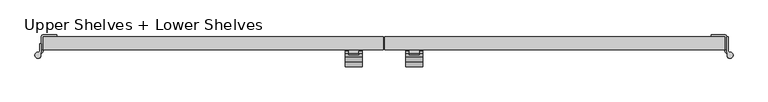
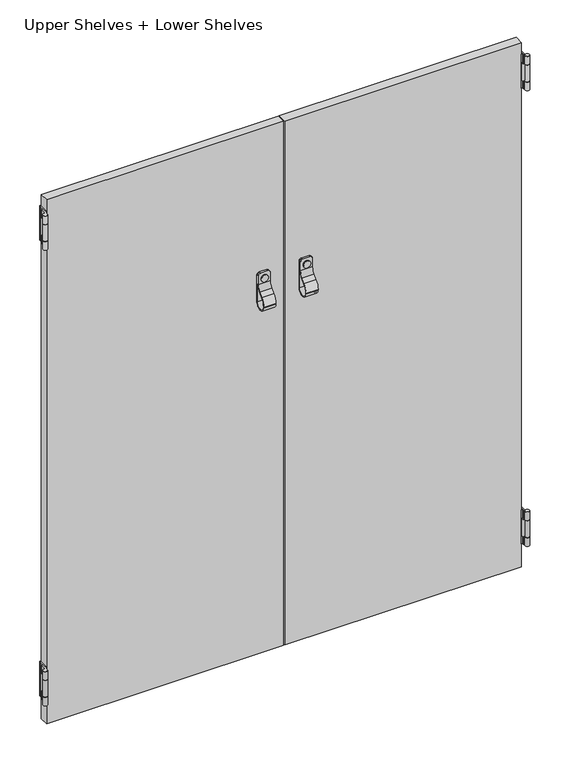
"""IFC4 building model written with IfcOpenShell, lengths in millimetres: furniture geometry, SmithSystem_AM_Storage_Education_Constellate_Stacking_LowMidCluster : Upper Shelves + Lower Shelves."""

from ifc_helpers import new_model, si_unit, point, frame, frame_2d, origin, place, context, project, spatial, polyline, circle_curve, trimmed, segment, composite_curve, outline, extrude, source, transform, mapped, element, save
from ifc_brep_helpers import plane_surface, cylinder_surface, revolved_surface, advanced_brep


def upper_shelves_lower_shelves_66190618(model_context):
    return source(origin(), model_context, "Body", "SolidModel", [
        advanced_brep(
        [(-57.15, -247.65, 844.55), (-31.75, -247.65, 844.55), (-31.75, -247.65, 884.1907684), (-57.15, -247.65, 884.1907684), (-31.75, -245.11, 844.55), (-57.15, -245.11, 844.55), (-57.15, -245.11, 902.97), (-52.07, -245.11, 908.05), (-36.83, -245.11, 908.05), (-31.75, -245.11, 902.97), (-57.15, -267.97, 845.4589755), (-31.75, -267.97, 845.4589755), (-31.75, -267.97, 844.55), (-57.15, -267.97, 844.55), (-31.75, -270.51, 845.4589755), (-57.15, -270.51, 845.4589755), (-57.15, -270.51, 844.55), (-31.75, -270.51, 844.55), (-31.75, -247.65, 902.97), (-31.75, -250.19, 902.97), (-31.75, -250.19, 884.1907684), (-31.75, -255.7696158, 870.7203842), (-31.75, -263.0705122, 863.4194878), (-31.75, -261.274461, 861.6234365), (-31.75, -253.9735646, 868.924333), (-57.15, -250.19, 902.97), (-57.15, -247.65, 902.97), (-57.15, -263.0705122, 863.4194878), (-57.15, -255.7696158, 870.7203842), (-57.15, -250.19, 884.1907684), (-57.15, -253.9735646, 868.924333), (-57.15, -261.274461, 861.6234365), (-36.83, -250.19, 908.05), (-52.07, -250.19, 908.05), (-36.83, -247.65, 908.05), (-52.07, -247.65, 908.05)],
        [
            (0, 1),
            (1, 2),
            (2, 3),
            (3, 0),
            (4, 5),
            (5, 6),
            (6, 7, circle_curve(frame((-52.07, -245.11, 902.97), z_axis=(0.0, 1.0, 0.0), x_axis=(1.0, 0.0, 0.0)), 5.08)),
            (7, 8),
            (8, 9, circle_curve(frame((-36.83, -245.11, 902.97), z_axis=(0.0, 1.0, 0.0), x_axis=(1.0, 0.0, 0.0)), 5.08)),
            (9, 4),
            (10, 11),
            (11, 12),
            (12, 13),
            (13, 10),
            (14, 15),
            (15, 16),
            (16, 17),
            (17, 14),
            (0, 13, circle_curve(frame((-57.15, -257.81, 844.55), z_axis=(-1.0, 0.0, 0.0), x_axis=(0.0, -1.0, 0.0)), 10.16)),
            (12, 1, circle_curve(frame((-31.75, -257.81, 844.55), z_axis=(1.0, 0.0, 0.0), x_axis=(0.0, -1.0, 0.0)), 10.16)),
            (4, 17, circle_curve(frame((-31.75, -257.81, 844.55), z_axis=(-1.0, 0.0, 0.0), x_axis=(0.0, -1.0, 0.0)), 12.7)),
            (16, 5, circle_curve(frame((-57.15, -257.81, 844.55), z_axis=(1.0, 0.0, 0.0), x_axis=(0.0, -1.0, 0.0)), 12.7)),
            (9, 18),
            (18, 19),
            (19, 20),
            (20, 21, circle_curve(frame((-31.75, -269.24, 884.1907684), z_axis=(-1.0, 0.0, 0.0), x_axis=(0.0, 1.0, 0.0)), 19.05)),
            (21, 22),
            (22, 14, circle_curve(frame((-31.75, -245.11, 845.4589755), z_axis=(1.0, 0.0, 0.0), x_axis=(0.0, -0.7071067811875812, 0.7071067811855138)), 25.4)),
            (11, 23, circle_curve(frame((-31.75, -245.11, 845.4589755), z_axis=(-1.0, 0.0, 0.0), x_axis=(0.0, -0.7071067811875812, 0.7071067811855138)), 22.86)),
            (23, 24),
            (24, 2, circle_curve(frame((-31.75, -269.24, 884.1907684), z_axis=(1.0, 0.0, 0.0), x_axis=(0.0, 1.0, 0.0)), 21.59)),
            (25, 26),
            (26, 6),
            (15, 27, circle_curve(frame((-57.15, -245.11, 845.4589755), z_axis=(-1.0, 0.0, 0.0), x_axis=(0.0, -0.7071067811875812, 0.7071067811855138)), 25.4)),
            (27, 28),
            (28, 29, circle_curve(frame((-57.15, -269.24, 884.1907684), z_axis=(1.0, 0.0, 0.0), x_axis=(0.0, 1.0, 0.0)), 19.05)),
            (29, 25),
            (3, 30, circle_curve(frame((-57.15, -269.24, 884.1907684), z_axis=(-1.0, 0.0, 0.0), x_axis=(0.0, 1.0, 0.0)), 21.59)),
            (30, 31),
            (31, 10, circle_curve(frame((-57.15, -245.11, 845.4589755), z_axis=(1.0, 0.0, 0.0), x_axis=(0.0, -0.7071067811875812, 0.7071067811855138)), 22.86)),
            (29, 20),
            (19, 32, circle_curve(frame((-36.83, -250.19, 902.97), z_axis=(0.0, -1.0, 0.0), x_axis=(1.0, 0.0, 0.0)), 5.08)),
            (32, 33),
            (33, 25, circle_curve(frame((-52.07, -250.19, 902.97), z_axis=(0.0, -1.0, 0.0), x_axis=(1.0, 0.0, 0.0)), 5.08)),
            (24, 30),
            (28, 21),
            (23, 31),
            (27, 22),
            (18, 34, circle_curve(frame((-36.83, -247.65, 902.97), z_axis=(0.0, -1.0, 0.0), x_axis=(1.0, 0.0, 0.0)), 5.08)),
            (34, 32),
            (34, 8),
            (7, 35),
            (35, 33),
            (35, 26, circle_curve(frame((-52.07, -247.65, 902.97), z_axis=(0.0, -1.0, 0.0), x_axis=(1.0, 0.0, 0.0)), 5.08)),
        ],
        [
            plane_surface(frame((-31.75, -247.65, 844.55), z_axis=(0.0, -1.0, 0.0), x_axis=(0.0, 0.0, 1.0))),
            plane_surface(frame((-57.15, -245.11, 844.55), z_axis=(0.0, 1.0, 0.0), x_axis=(0.0, 0.0, 1.0))),
            plane_surface(frame((-31.75, -267.97, 845.4589755), z_axis=(0.0, 1.0, 0.0), x_axis=(0.0, 0.0, -1.0))),
            plane_surface(frame((-57.15, -270.51, 845.4589755), z_axis=(0.0, -1.0, 0.0), x_axis=(0.0, 0.0, -1.0))),
            revolved_surface(polyline([(-31.75, -267.97, 844.55), (-57.15, -267.97, 844.55)]), (0.0, -257.81, 844.55), (1.0, 0.0, 0.0)),
            cylinder_surface(frame((0.0, -257.81, 844.55), z_axis=(1.0, 0.0, 0.0), x_axis=(0.0, -1.0, 0.0)), 12.7),
            plane_surface(frame((-31.75, -250.19, 895.35), z_axis=(1.0, 0.0, 0.0), x_axis=(0.0, 0.0, -1.0))),
            plane_surface(frame((-57.15, -247.65, 895.35), z_axis=(-1.0, 0.0, 0.0), x_axis=(0.0, 0.0, -1.0))),
            plane_surface(frame((-57.15, -250.19, 895.35), z_axis=(0.0, -1.0, 0.0), x_axis=(0.0, 0.0, -1.0))),
            cylinder_surface(frame((0.0, -269.24, 884.1907684), z_axis=(-1.0, 0.0, 0.0), x_axis=(0.0, 1.0, 0.0)), 21.59),
            revolved_surface(polyline([(-57.15, -250.19, 884.1907684), (-31.75, -250.19, 884.1907684)]), (0.0, -269.24, 884.1907684), (-1.0, 0.0, 0.0)),
            plane_surface(frame((-31.75, -253.9735646, 868.924333), z_axis=(0.0, 0.70710678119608, -0.7071067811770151), x_axis=(0.0, -0.7071067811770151, -0.70710678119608))),
            plane_surface(frame((-57.15, -255.7696158, 870.7203842), z_axis=(0.0, -0.7071067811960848, 0.7071067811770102), x_axis=(0.0, -0.7071067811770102, -0.7071067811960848))),
            revolved_surface(polyline([(-31.75, -261.2744610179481, 861.6234365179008), (-57.15, -261.2744610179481, 861.6234365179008)]), (0.0, -245.11, 845.4589755), (1.0, 0.0, 0.0)),
            cylinder_surface(frame((0.0, -245.11, 845.4589755), z_axis=(1.0, 0.0, 0.0), x_axis=(0.0, -0.7071067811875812, 0.7071067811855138)), 25.4),
            cylinder_surface(frame((-36.83, -245.11, 902.97), z_axis=(0.0, -1.0, 0.0), x_axis=(1.0, 0.0, 0.0)), 5.08),
            plane_surface(frame((-36.83, -250.19, 908.05), z_axis=(1.0835776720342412e-12, 0.0, 1.0), x_axis=(0.0, 1.0, 0.0))),
            cylinder_surface(frame((-52.07, -245.11, 902.97), z_axis=(0.0, -1.0, 0.0), x_axis=(1.0, 0.0, 0.0)), 5.08),
        ],
        [
            (0, [[1, 2, 3, 4]]),
            (1, [[5, 6, 7, 8, 9, 10]]),
            (2, [[11, 12, 13, 14]]),
            (3, [[15, 16, 17, 18]]),
            (4, [[-1, 19, -13, 20]]),
            (5, [[-5, 21, -17, 22]]),
            (6, [[-10, 23, 24, 25, 26, 27, 28, -18, -21], [-2, -20, -12, 29, 30, 31]]),
            (7, [[32, 33, -6, -22, -16, 34, 35, 36, 37], [-4, 38, 39, 40, -14, -19]]),
            (8, [[41, -25, 42, 43, 44, -37]]),
            (9, [[-31, 45, -38, -3]]),
            (10, [[-26, -41, -36, 46]]),
            (11, [[-30, 47, -39, -45]]),
            (12, [[-27, -46, -35, 48]]),
            (13, [[-11, -40, -47, -29]]),
            (14, [[-15, -28, -48, -34]]),
            (15, [[-42, -24, 49, 50]]),
            (16, [[-43, -50, 51, -8, 52, 53]]),
            (17, [[-44, -53, 54, -32]]),
            (15, [[-9, -51, -49, -23]]),
            (17, [[-7, -33, -54, -52]]),
        ],
    ),
        advanced_brep(
        [(57.15, -247.65, 884.1907684), (31.75, -247.65, 884.1907684), (31.75, -247.65, 844.55), (57.15, -247.65, 844.55), (31.75, -245.11, 902.97), (36.83, -245.11, 908.05), (52.07, -245.11, 908.05), (57.15, -245.11, 902.97), (57.15, -245.11, 844.55), (31.75, -245.11, 844.55), (31.75, -267.97, 845.4589755), (57.15, -267.97, 845.4589755), (57.15, -267.97, 844.55), (31.75, -267.97, 844.55), (57.15, -270.51, 845.4589755), (31.75, -270.51, 845.4589755), (31.75, -270.51, 844.55), (57.15, -270.51, 844.55), (31.75, -250.19, 884.1907684), (57.15, -250.19, 884.1907684), (57.15, -250.19, 902.97), (52.07, -250.19, 908.05), (36.83, -250.19, 908.05), (31.75, -250.19, 902.97), (57.15, -247.65, 902.97), (57.15, -255.7696158, 870.7203842), (57.15, -263.0705122, 863.4194878), (57.15, -261.274461, 861.6234365), (57.15, -253.9735646, 868.924333), (31.75, -247.65, 902.97), (31.75, -263.0705122, 863.4194878), (31.75, -255.7696158, 870.7203842), (31.75, -253.9735646, 868.924333), (31.75, -261.274461, 861.6234365), (52.07, -247.65, 908.05), (36.83, -247.65, 908.05)],
        [
            (0, 1),
            (1, 2),
            (2, 3),
            (3, 0),
            (4, 5, circle_curve(frame((36.83, -245.11, 902.97), z_axis=(0.0, 1.0, 0.0), x_axis=(1.0, 0.0, 0.0)), 5.08)),
            (5, 6),
            (6, 7, circle_curve(frame((52.07, -245.11, 902.97), z_axis=(0.0, 1.0, 0.0), x_axis=(1.0, 0.0, 0.0)), 5.08)),
            (7, 8),
            (8, 9),
            (9, 4),
            (10, 11),
            (11, 12),
            (12, 13),
            (13, 10),
            (14, 15),
            (15, 16),
            (16, 17),
            (17, 14),
            (2, 13, circle_curve(frame((31.75, -257.81, 844.55), z_axis=(-1.0, 0.0, 0.0), x_axis=(0.0, -1.0, 0.0)), 10.16)),
            (12, 3, circle_curve(frame((57.15, -257.81, 844.55), z_axis=(1.0, 0.0, 0.0), x_axis=(0.0, -1.0, 0.0)), 10.16)),
            (8, 17, circle_curve(frame((57.15, -257.81, 844.55), z_axis=(-1.0, 0.0, 0.0), x_axis=(0.0, -1.0, 0.0)), 12.7)),
            (16, 9, circle_curve(frame((31.75, -257.81, 844.55), z_axis=(1.0, 0.0, 0.0), x_axis=(0.0, -1.0, 0.0)), 12.7)),
            (18, 19),
            (19, 20),
            (20, 21, circle_curve(frame((52.07, -250.19, 902.97), z_axis=(0.0, -1.0, 0.0), x_axis=(1.0, 0.0, 0.0)), 5.08)),
            (21, 22),
            (22, 23, circle_curve(frame((36.83, -250.19, 902.97), z_axis=(0.0, -1.0, 0.0), x_axis=(1.0, 0.0, 0.0)), 5.08)),
            (23, 18),
            (7, 24),
            (24, 20),
            (19, 25, circle_curve(frame((57.15, -269.24, 884.1907684), z_axis=(-1.0, 0.0, 0.0), x_axis=(0.0, 1.0, 0.0)), 19.05)),
            (25, 26),
            (26, 14, circle_curve(frame((57.15, -245.11, 845.4589755), z_axis=(1.0, 0.0, 0.0), x_axis=(0.0, -0.7071067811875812, 0.7071067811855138)), 25.4)),
            (11, 27, circle_curve(frame((57.15, -245.11, 845.4589755), z_axis=(-1.0, 0.0, 0.0), x_axis=(0.0, -0.7071067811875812, 0.7071067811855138)), 22.86)),
            (27, 28),
            (28, 0, circle_curve(frame((57.15, -269.24, 884.1907684), z_axis=(1.0, 0.0, 0.0), x_axis=(0.0, 1.0, 0.0)), 21.59)),
            (23, 29),
            (29, 4),
            (15, 30, circle_curve(frame((31.75, -245.11, 845.4589755), z_axis=(-1.0, 0.0, 0.0), x_axis=(0.0, -0.7071067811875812, 0.7071067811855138)), 25.4)),
            (30, 31),
            (31, 18, circle_curve(frame((31.75, -269.24, 884.1907684), z_axis=(1.0, 0.0, 0.0), x_axis=(0.0, 1.0, 0.0)), 19.05)),
            (1, 32, circle_curve(frame((31.75, -269.24, 884.1907684), z_axis=(-1.0, 0.0, 0.0), x_axis=(0.0, 1.0, 0.0)), 21.59)),
            (32, 33),
            (33, 10, circle_curve(frame((31.75, -245.11, 845.4589755), z_axis=(1.0, 0.0, 0.0), x_axis=(0.0, -0.7071067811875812, 0.7071067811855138)), 22.86)),
            (28, 32),
            (31, 25),
            (27, 33),
            (30, 26),
            (21, 34),
            (34, 6),
            (5, 35),
            (35, 22),
            (35, 29, circle_curve(frame((36.83, -247.65, 902.97), z_axis=(0.0, -1.0, 0.0), x_axis=(1.0, 0.0, 0.0)), 5.08)),
            (24, 34, circle_curve(frame((52.07, -247.65, 902.97), z_axis=(0.0, -1.0, 0.0), x_axis=(1.0, 0.0, 0.0)), 5.08)),
        ],
        [
            plane_surface(frame((-31.75, -247.65, 844.55), z_axis=(0.0, -1.0, 0.0), x_axis=(0.0, 0.0, 1.0))),
            plane_surface(frame((-57.15, -245.11, 844.55), z_axis=(0.0, 1.0, 0.0), x_axis=(0.0, 0.0, 1.0))),
            plane_surface(frame((57.15, -267.97, 845.4589755), z_axis=(0.0, 1.0, 0.0), x_axis=(0.0, 0.0, -1.0))),
            plane_surface(frame((31.75, -270.51, 845.4589755), z_axis=(0.0, -1.0, 0.0), x_axis=(0.0, 0.0, -1.0))),
            revolved_surface(polyline([(57.15, -267.97, 844.55), (31.75, -267.97, 844.55)]), (0.0, -257.81, 844.55), (1.0, 0.0, 0.0)),
            cylinder_surface(frame((0.0, -257.81, 844.55), z_axis=(1.0, 0.0, 0.0), x_axis=(0.0, -1.0, 0.0)), 12.7),
            plane_surface(frame((-57.15, -250.19, 895.35), z_axis=(0.0, -1.0, 0.0), x_axis=(0.0, 0.0, -1.0))),
            plane_surface(frame((57.15, -250.19, 895.35), z_axis=(1.0, 0.0, 0.0), x_axis=(0.0, 0.0, -1.0))),
            plane_surface(frame((31.75, -247.65, 895.35), z_axis=(-1.0, 0.0, 0.0), x_axis=(0.0, 0.0, -1.0))),
            cylinder_surface(frame((0.0, -269.24, 884.1907684), z_axis=(-1.0, 0.0, 0.0), x_axis=(0.0, 1.0, 0.0)), 21.59),
            revolved_surface(polyline([(31.75, -250.19, 884.1907684), (57.15, -250.19, 884.1907684)]), (0.0, -269.24, 884.1907684), (-1.0, 0.0, 0.0)),
            plane_surface(frame((57.15, -253.9735646, 868.924333), z_axis=(0.0, 0.7071067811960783, -0.7071067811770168), x_axis=(0.0, -0.7071067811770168, -0.7071067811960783))),
            plane_surface(frame((31.75, -255.7696158, 870.7203842), z_axis=(0.0, -0.7071067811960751, 0.7071067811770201), x_axis=(0.0, -0.7071067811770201, -0.7071067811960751))),
            revolved_surface(polyline([(57.15, -261.2744610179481, 861.6234365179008), (31.75, -261.2744610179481, 861.6234365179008)]), (0.0, -245.11, 845.4589755), (1.0, 0.0, 0.0)),
            cylinder_surface(frame((0.0, -245.11, 845.4589755), z_axis=(1.0, 0.0, 0.0), x_axis=(0.0, -0.7071067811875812, 0.7071067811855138)), 25.4),
            plane_surface(frame((52.07, -250.19, 908.05), z_axis=(0.0, 0.0, 1.0), x_axis=(0.0, 1.0, 0.0))),
            cylinder_surface(frame((36.83, -247.65, 902.97), z_axis=(0.0, -1.0, 0.0), x_axis=(1.0, 0.0, 0.0)), 5.08),
            cylinder_surface(frame((52.07, -247.65, 902.97), z_axis=(0.0, -1.0, 0.0), x_axis=(1.0, 0.0, 0.0)), 5.08),
            cylinder_surface(frame((52.07, -245.11, 902.97), z_axis=(0.0, -1.0, 0.0), x_axis=(1.0, 0.0, 0.0)), 5.08),
            cylinder_surface(frame((36.83, -245.11, 902.97), z_axis=(0.0, -1.0, 0.0), x_axis=(1.0, 0.0, 0.0)), 5.08),
        ],
        [
            (0, [[1, 2, 3, 4]]),
            (1, [[5, 6, 7, 8, 9, 10]]),
            (2, [[11, 12, 13, 14]]),
            (3, [[15, 16, 17, 18]]),
            (4, [[-3, 19, -13, 20]]),
            (5, [[-9, 21, -17, 22]]),
            (6, [[23, 24, 25, 26, 27, 28]]),
            (7, [[-8, 29, 30, -24, 31, 32, 33, -18, -21], [-4, -20, -12, 34, 35, 36]]),
            (8, [[37, 38, -10, -22, -16, 39, 40, 41, -28], [-2, 42, 43, 44, -14, -19]]),
            (9, [[-36, 45, -42, -1]]),
            (10, [[-31, -23, -41, 46]]),
            (11, [[-35, 47, -43, -45]]),
            (12, [[-32, -46, -40, 48]]),
            (13, [[-11, -44, -47, -34]]),
            (14, [[-15, -33, -48, -39]]),
            (15, [[-26, 49, 50, -6, 51, 52]]),
            (16, [[-27, -52, 53, -37]]),
            (17, [[-25, -30, 54, -49]]),
            (18, [[-7, -50, -54, -29]]),
            (19, [[-5, -38, -53, -51]]),
        ],
    ),
        advanced_brep(
        [(-505.46, -247.65, 1123.95), (-505.46, -236.22, 1123.95), (-502.92, -236.22, 1123.95), (-502.92, -247.65, 1123.95), (-504.444, -250.698, 1123.95), (-508.0, -248.92, 1123.95), (-506.73, -248.92, 1123.95), (-505.46, -247.65, 1143.0), (-506.73, -248.92, 1143.0), (-508.0, -248.92, 1143.0), (-504.444, -250.698, 1143.0), (-502.92, -247.65, 1143.0), (-502.92, -236.22, 1143.0), (-505.46, -236.22, 1143.0)],
        [
            (0, 1),
            (1, 2),
            (2, 3),
            (3, 4, circle_curve(frame((-506.73, -247.65, 1123.95), z_axis=(0.0, 0.0, -1.0), x_axis=(0.0, 1.0, 0.0)), 3.81)),
            (4, 5, circle_curve(frame((-508.0, -253.365, 1123.95), z_axis=(0.0, 0.0, -1.0), x_axis=(0.0, 1.0, 0.0)), 4.445)),
            (5, 6),
            (6, 0, circle_curve(frame((-506.73, -247.65, 1123.95), z_axis=(0.0, 0.0, 1.0), x_axis=(0.0, 1.0, 0.0)), 1.27)),
            (7, 8, circle_curve(frame((-506.73, -247.65, 1143.0), z_axis=(0.0, 0.0, -1.0), x_axis=(0.0, 1.0, 0.0)), 1.27)),
            (8, 9),
            (9, 10, circle_curve(frame((-508.0, -253.365, 1143.0), z_axis=(0.0, 0.0, 1.0), x_axis=(0.0, 1.0, 0.0)), 4.445)),
            (10, 11, circle_curve(frame((-506.73, -247.65, 1143.0), z_axis=(0.0, 0.0, 1.0), x_axis=(0.0, 1.0, 0.0)), 3.81)),
            (11, 12),
            (12, 13),
            (13, 7),
            (2, 12),
            (11, 3),
            (1, 13),
            (0, 7),
            (6, 8),
            (5, 9),
            (4, 10),
        ],
        [
            plane_surface(frame((-505.46, -236.22, 1123.95), z_axis=(0.0, 0.0, -1.0), x_axis=(0.0, 1.0, 0.0))),
            plane_surface(frame((-505.46, -236.22, 1143.0), z_axis=(0.0, 0.0, 1.0), x_axis=(0.0, -1.0, 0.0))),
            plane_surface(frame((-502.92, -236.22, 1123.95), z_axis=(1.0, 0.0, 0.0), x_axis=(0.0, 0.0, 1.0))),
            plane_surface(frame((-505.46, -236.22, 1123.95), z_axis=(0.0, 1.0, 0.0), x_axis=(0.0, 0.0, 1.0))),
            plane_surface(frame((-505.46, -247.65, 1123.95), z_axis=(-1.0, 0.0, 0.0), x_axis=(0.0, 0.0, 1.0))),
            revolved_surface(polyline([(-506.73, -246.38, 1143.0), (-506.73, -246.38, 1123.95)]), (-506.73, -247.65, 1143.0), (0.0, 0.0, 1.0)),
            plane_surface(frame((-508.0, -248.92, 1123.95), z_axis=(0.0, 1.0, 0.0), x_axis=(0.0, 0.0, 1.0))),
            cylinder_surface(frame((-508.0, -253.365, 1143.0), z_axis=(0.0, 0.0, -1.0), x_axis=(0.0, 1.0, 0.0)), 4.445),
            cylinder_surface(frame((-506.73, -247.65, 1143.0), z_axis=(0.0, 0.0, -1.0), x_axis=(0.0, 1.0, 0.0)), 3.81),
        ],
        [
            (0, [[1, 2, 3, 4, 5, 6, 7]]),
            (1, [[8, 9, 10, 11, 12, 13, 14]]),
            (2, [[-3, 15, -12, 16]]),
            (3, [[-2, 17, -13, -15]]),
            (4, [[-1, 18, -14, -17]]),
            (5, [[-7, 19, -8, -18]]),
            (6, [[-6, 20, -9, -19]]),
            (7, [[-5, 21, -10, -20]]),
            (8, [[-4, -16, -11, -21]]),
        ],
    ),
        advanced_brep(
        [(504.444, -250.698, 1123.95), (502.92, -247.65, 1123.95), (502.92, -226.06, 1123.95), (505.46, -226.06, 1123.95), (505.46, -247.65, 1123.95), (506.73, -248.92, 1123.95), (508.0, -248.92, 1123.95), (504.444, -250.698, 1143.0), (508.0, -248.92, 1143.0), (506.73, -248.92, 1143.0), (505.46, -247.65, 1143.0), (505.46, -245.11, 1143.0), (502.92, -245.11, 1143.0), (502.92, -247.65, 1143.0), (505.46, -226.06, 1200.15), (505.46, -247.65, 1200.15), (505.46, -247.65, 1181.1), (505.46, -245.11, 1181.1), (502.92, -245.11, 1181.1), (502.92, -247.65, 1181.1), (502.92, -247.65, 1200.15), (502.92, -226.06, 1200.15), (504.444, -250.698, 1200.15), (508.0, -248.92, 1200.15), (506.73, -248.92, 1200.15), (506.73, -248.92, 1181.1), (508.0, -248.92, 1181.1), (504.444, -250.698, 1181.1)],
        [
            (0, 1, circle_curve(frame((506.73, -247.65, 1123.95), z_axis=(0.0, 0.0, -1.0), x_axis=(0.0, 1.0, 0.0)), 3.81)),
            (1, 2),
            (2, 3),
            (3, 4),
            (4, 5, circle_curve(frame((506.73, -247.65, 1123.95), z_axis=(0.0, 0.0, 1.0), x_axis=(0.0, 1.0, 0.0)), 1.27)),
            (5, 6),
            (6, 0, circle_curve(frame((508.0, -253.365, 1123.95), z_axis=(0.0, 0.0, -1.0), x_axis=(0.0, 1.0, 0.0)), 4.445)),
            (7, 8, circle_curve(frame((508.0, -253.365, 1143.0), z_axis=(0.0, 0.0, 1.0), x_axis=(0.0, 1.0, 0.0)), 4.445)),
            (8, 9),
            (9, 10, circle_curve(frame((506.73, -247.65, 1143.0), z_axis=(0.0, 0.0, -1.0), x_axis=(0.0, 1.0, 0.0)), 1.27)),
            (10, 11),
            (11, 12),
            (12, 13),
            (13, 7, circle_curve(frame((506.73, -247.65, 1143.0), z_axis=(0.0, 0.0, 1.0), x_axis=(0.0, 1.0, 0.0)), 3.81)),
            (5, 9),
            (8, 6),
            (4, 10),
            (3, 14),
            (14, 15),
            (15, 16),
            (16, 17),
            (17, 11),
            (1, 13),
            (12, 18),
            (18, 19),
            (19, 20),
            (20, 21),
            (21, 2),
            (7, 0),
            (20, 22, circle_curve(frame((506.73, -247.65, 1200.15), z_axis=(0.0, 0.0, 1.0), x_axis=(0.0, 1.0, 0.0)), 3.81)),
            (22, 23, circle_curve(frame((508.0, -253.365, 1200.15), z_axis=(0.0, 0.0, 1.0), x_axis=(0.0, 1.0, 0.0)), 4.445)),
            (23, 24),
            (24, 15, circle_curve(frame((506.73, -247.65, 1200.15), z_axis=(0.0, 0.0, -1.0), x_axis=(0.0, 1.0, 0.0)), 1.27)),
            (14, 21),
            (16, 25, circle_curve(frame((506.73, -247.65, 1181.1), z_axis=(0.0, 0.0, 1.0), x_axis=(0.0, 1.0, 0.0)), 1.27)),
            (25, 26),
            (26, 27, circle_curve(frame((508.0, -253.365, 1181.1), z_axis=(0.0, 0.0, -1.0), x_axis=(0.0, 1.0, 0.0)), 4.445)),
            (27, 19, circle_curve(frame((506.73, -247.65, 1181.1), z_axis=(0.0, 0.0, -1.0), x_axis=(0.0, 1.0, 0.0)), 3.81)),
            (18, 17),
            (23, 26),
            (25, 24),
            (22, 27),
        ],
        [
            plane_surface(frame((-505.46, -236.22, 1123.95), z_axis=(0.0, 0.0, -1.0), x_axis=(0.0, 1.0, 0.0))),
            plane_surface(frame((-505.46, -236.22, 1143.0), z_axis=(0.0, 0.0, 1.0), x_axis=(0.0, -1.0, 0.0))),
            plane_surface(frame((506.73, -248.92, 1123.95), z_axis=(0.0, 1.0, 0.0), x_axis=(0.0, 0.0, 1.0))),
            revolved_surface(polyline([(506.73, -246.38, 1143.0), (506.73, -246.38, 1123.95)]), (506.73, -247.65, 1123.95), (0.0, 0.0, 1.0)),
            plane_surface(frame((505.46, -236.22, 1123.95), z_axis=(1.0, 0.0, 0.0), x_axis=(0.0, 0.0, 1.0))),
            plane_surface(frame((502.92, -247.65, 1123.95), z_axis=(-1.0, 0.0, 0.0), x_axis=(0.0, 0.0, 1.0))),
            cylinder_surface(frame((508.0, -253.365, 1123.95), z_axis=(0.0, 0.0, -1.0), x_axis=(0.0, 1.0, 0.0)), 4.445),
            plane_surface(frame((-508.0, -248.92, 1200.15), z_axis=(0.0, 0.0, 1.0), x_axis=(-1.0, 0.0, 0.0))),
            plane_surface(frame((-508.0, -248.92, 1181.1), z_axis=(0.0, 0.0, -1.0), x_axis=(1.0, 0.0, 0.0))),
            plane_surface(frame((506.73, -248.92, 1181.1), z_axis=(0.0, 1.0, 0.0), x_axis=(0.0, 0.0, 1.0))),
            revolved_surface(polyline([(506.73, -246.38, 1200.15), (506.73, -246.38, 1181.1)]), (506.73, -247.65, 1123.95), (0.0, 0.0, 1.0)),
            plane_surface(frame((505.46, -226.06, 1123.95), z_axis=(0.0, 1.0, 0.0), x_axis=(-1.0, 0.0, 0.0))),
            plane_surface(frame((505.46, -245.11, 1200.15), z_axis=(0.0, -1.0, 0.0), x_axis=(-1.0, 0.0, 0.0))),
            cylinder_surface(frame((506.73, -247.65, 1123.95), z_axis=(0.0, 0.0, -1.0), x_axis=(0.0, 1.0, 0.0)), 3.81),
        ],
        [
            (0, [[1, 2, 3, 4, 5, 6, 7]]),
            (1, [[8, 9, 10, 11, 12, 13, 14]]),
            (2, [[-6, 15, -9, 16]]),
            (3, [[-5, 17, -10, -15]]),
            (4, [[-17, -4, 18, 19, 20, 21, 22, -11]]),
            (5, [[-2, 23, -13, 24, 25, 26, 27, 28]]),
            (6, [[-7, -16, -8, 29]]),
            (7, [[-27, 30, 31, 32, 33, -19, 34]]),
            (8, [[35, 36, 37, 38, -25, 39, -21]]),
            (9, [[-32, 40, -36, 41]]),
            (10, [[-33, -41, -35, -20]]),
            (6, [[-31, 42, -37, -40]]),
            (11, [[-28, -34, -18, -3]]),
            (12, [[-24, -12, -22, -39]]),
            (13, [[-30, -26, -38, -42]]),
            (13, [[-1, -29, -14, -23]]),
        ],
    ),
        advanced_brep(
        [(505.46, -226.06, 107.95), (505.46, -226.06, 184.15), (505.46, -247.65, 184.15), (505.46, -247.65, 165.1), (505.46, -245.11, 165.1), (505.46, -245.11, 127.0), (505.46, -247.65, 127.0), (505.46, -247.65, 107.95), (502.92, -226.06, 184.15), (502.92, -226.06, 107.95), (502.92, -247.65, 107.95), (502.92, -247.65, 127.0), (502.92, -245.11, 127.0), (502.92, -245.11, 165.1), (502.92, -247.65, 165.1), (502.92, -247.65, 184.15), (504.444, -250.698, 184.15), (508.0, -248.92, 184.15), (506.73, -248.92, 184.15), (506.73, -248.92, 165.1), (508.0, -248.92, 165.1), (504.444, -250.698, 165.1), (504.444, -250.698, 127.0), (508.0, -248.92, 127.0), (506.73, -248.92, 127.0), (504.444, -250.698, 107.95), (506.73, -248.92, 107.95), (508.0, -248.92, 107.95)],
        [
            (0, 1),
            (1, 2),
            (2, 3),
            (3, 4),
            (4, 5),
            (5, 6),
            (6, 7),
            (7, 0),
            (8, 9),
            (9, 10),
            (10, 11),
            (11, 12),
            (12, 13),
            (13, 14),
            (14, 15),
            (15, 8),
            (15, 16, circle_curve(frame((506.73, -247.65, 184.15), z_axis=(0.0, 0.0, 1.0), x_axis=(1.0, 0.0, 0.0)), 3.81)),
            (16, 17, circle_curve(frame((508.0, -253.365, 184.15), z_axis=(0.0, 0.0, 1.0), x_axis=(1.0, 0.0, 0.0)), 4.445)),
            (17, 18),
            (18, 2, circle_curve(frame((506.73, -247.65, 184.15), z_axis=(0.0, 0.0, -1.0), x_axis=(1.0, 0.0, 0.0)), 1.27)),
            (1, 8),
            (3, 19, circle_curve(frame((506.73, -247.65, 165.1), z_axis=(0.0, 0.0, 1.0), x_axis=(1.0, 0.0, 0.0)), 1.27)),
            (19, 20),
            (20, 21, circle_curve(frame((508.0, -253.365, 165.1), z_axis=(0.0, 0.0, -1.0), x_axis=(1.0, 0.0, 0.0)), 4.445)),
            (21, 14, circle_curve(frame((506.73, -247.65, 165.1), z_axis=(0.0, 0.0, -1.0), x_axis=(1.0, 0.0, 0.0)), 3.81)),
            (13, 4),
            (22, 23, circle_curve(frame((508.0, -253.365, 127.0), z_axis=(0.0, 0.0, 1.0), x_axis=(1.0, 0.0, 0.0)), 4.445)),
            (23, 24),
            (24, 6, circle_curve(frame((506.73, -247.65, 127.0), z_axis=(0.0, 0.0, -1.0), x_axis=(1.0, 0.0, 0.0)), 1.27)),
            (5, 12),
            (11, 22, circle_curve(frame((506.73, -247.65, 127.0), z_axis=(0.0, 0.0, 1.0), x_axis=(1.0, 0.0, 0.0)), 3.81)),
            (25, 10, circle_curve(frame((506.73, -247.65, 107.95), z_axis=(0.0, 0.0, -1.0), x_axis=(1.0, 0.0, 0.0)), 3.81)),
            (9, 0),
            (7, 26, circle_curve(frame((506.73, -247.65, 107.95), z_axis=(0.0, 0.0, 1.0), x_axis=(1.0, 0.0, 0.0)), 1.27)),
            (26, 27),
            (27, 25, circle_curve(frame((508.0, -253.365, 107.95), z_axis=(0.0, 0.0, -1.0), x_axis=(1.0, 0.0, 0.0)), 4.445)),
            (23, 27),
            (26, 24),
            (22, 25),
            (21, 16),
            (20, 17),
            (19, 18),
        ],
        [
            plane_surface(frame((505.46, -236.22, 1123.95), z_axis=(1.0, 0.0, 0.0), x_axis=(0.0, 0.0, 1.0))),
            plane_surface(frame((502.92, -247.65, 1123.95), z_axis=(-1.0, 0.0, 0.0), x_axis=(0.0, 0.0, 1.0))),
            plane_surface(frame((-505.46, -247.65, 184.15), z_axis=(0.0, 0.0, 1.0), x_axis=(0.0, -1.0, 0.0))),
            plane_surface(frame((-505.46, -247.65, 165.1), z_axis=(0.0, 0.0, -1.0), x_axis=(0.0, 1.0, 0.0))),
            plane_surface(frame((-502.92, -247.65, 127.0), z_axis=(0.0, 0.0, 1.0), x_axis=(0.0, 1.0, 0.0))),
            plane_surface(frame((-502.92, -247.65, 107.95), z_axis=(0.0, 0.0, -1.0), x_axis=(0.0, -1.0, 0.0))),
            plane_surface(frame((508.0, -248.92, 127.0), z_axis=(0.0, 1.0, 0.0), x_axis=(0.0, 0.0, -1.0))),
            revolved_surface(polyline([(508.0, -247.65, 107.95), (508.0, -247.65, 127.0)]), (506.73, -247.65, 0.0), (0.0, 0.0, -1.0)),
            cylinder_surface(frame((508.0, -253.365, 0.0), z_axis=(0.0, 0.0, 1.0), x_axis=(1.0, 0.0, 0.0)), 4.445),
            cylinder_surface(frame((506.73, -247.65, 0.0), z_axis=(0.0, 0.0, 1.0), x_axis=(1.0, 0.0, 0.0)), 3.81),
            plane_surface(frame((508.0, -248.92, 184.15), z_axis=(0.0, 1.0, 0.0), x_axis=(0.0, 0.0, -1.0))),
            revolved_surface(polyline([(508.0, -247.65, 165.1), (508.0, -247.65, 184.15)]), (506.73, -247.65, 0.0), (0.0, 0.0, -1.0)),
            plane_surface(frame((505.46, -226.06, 107.95), z_axis=(0.0, 1.0, 0.0), x_axis=(-1.0, 0.0, 0.0))),
            plane_surface(frame((505.46, -245.11, 184.15), z_axis=(0.0, -1.0, 0.0), x_axis=(-1.0, 0.0, 0.0))),
        ],
        [
            (0, [[1, 2, 3, 4, 5, 6, 7, 8]]),
            (1, [[9, 10, 11, 12, 13, 14, 15, 16]]),
            (2, [[-16, 17, 18, 19, 20, -2, 21]]),
            (3, [[22, 23, 24, 25, -14, 26, -4]]),
            (4, [[27, 28, 29, -6, 30, -12, 31]]),
            (5, [[32, -10, 33, -8, 34, 35, 36]]),
            (6, [[-28, 37, -35, 38]]),
            (7, [[-29, -38, -34, -7]]),
            (8, [[-27, 39, -36, -37]]),
            (9, [[-17, -15, -25, 40]]),
            (8, [[-18, -40, -24, 41]]),
            (10, [[-19, -41, -23, 42]]),
            (11, [[-20, -42, -22, -3]]),
            (12, [[-9, -21, -1, -33]]),
            (13, [[-5, -26, -13, -30]]),
            (9, [[-31, -11, -32, -39]]),
        ],
    ),
        advanced_brep(
        [(-504.444, -250.698, 1200.15), (-502.92, -247.65, 1200.15), (-502.92, -236.22, 1200.15), (-505.46, -236.22, 1200.15), (-505.46, -247.65, 1200.15), (-506.73, -248.92, 1200.15), (-508.0, -248.92, 1200.15), (-504.444, -250.698, 1181.1), (-508.0, -248.92, 1181.1), (-506.73, -248.92, 1181.1), (-505.46, -247.65, 1181.1), (-505.46, -236.22, 1181.1), (-502.92, -236.22, 1181.1), (-502.92, -247.65, 1181.1)],
        [
            (0, 1, circle_curve(frame((-506.73, -247.65, 1200.15), z_axis=(0.0, 0.0, 1.0), x_axis=(0.0, 1.0, 0.0)), 3.81)),
            (1, 2),
            (2, 3),
            (3, 4),
            (4, 5, circle_curve(frame((-506.73, -247.65, 1200.15), z_axis=(0.0, 0.0, -1.0), x_axis=(0.0, 1.0, 0.0)), 1.27)),
            (5, 6),
            (6, 0, circle_curve(frame((-508.0, -253.365, 1200.15), z_axis=(0.0, 0.0, 1.0), x_axis=(0.0, 1.0, 0.0)), 4.445)),
            (7, 8, circle_curve(frame((-508.0, -253.365, 1181.1), z_axis=(0.0, 0.0, -1.0), x_axis=(0.0, 1.0, 0.0)), 4.445)),
            (8, 9),
            (9, 10, circle_curve(frame((-506.73, -247.65, 1181.1), z_axis=(0.0, 0.0, 1.0), x_axis=(0.0, 1.0, 0.0)), 1.27)),
            (10, 11),
            (11, 12),
            (12, 13),
            (13, 7, circle_curve(frame((-506.73, -247.65, 1181.1), z_axis=(0.0, 0.0, -1.0), x_axis=(0.0, 1.0, 0.0)), 3.81)),
            (6, 8),
            (7, 0),
            (1, 13),
            (12, 2),
            (11, 3),
            (10, 4),
            (9, 5),
        ],
        [
            plane_surface(frame((-508.0, -248.92, 1200.15), z_axis=(0.0, 0.0, 1.0), x_axis=(-1.0, 0.0, 0.0))),
            plane_surface(frame((-508.0, -248.92, 1181.1), z_axis=(0.0, 0.0, -1.0), x_axis=(1.0, 0.0, 0.0))),
            cylinder_surface(frame((-508.0, -253.365, 1200.15), z_axis=(0.0, 0.0, -1.0), x_axis=(0.0, 1.0, 0.0)), 4.445),
            plane_surface(frame((-502.92, -236.22, 1181.1), z_axis=(1.0, 1.0125233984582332e-12, 0.0), x_axis=(0.0, 0.0, 1.0))),
            plane_surface(frame((-505.46, -236.22, 1181.1), z_axis=(0.0, 1.0, 0.0), x_axis=(0.0, 0.0, 1.0))),
            plane_surface(frame((-505.46, -247.65, 1181.1), z_axis=(-1.0, 0.0, 0.0), x_axis=(0.0, 0.0, 1.0))),
            revolved_surface(polyline([(-506.73, -246.38, 1200.15), (-506.73, -246.38, 1181.1)]), (-506.73, -247.65, 1200.15), (0.0, 0.0, 1.0)),
            plane_surface(frame((-508.0, -248.92, 1181.1), z_axis=(0.0, 1.0, 0.0), x_axis=(0.0, 0.0, 1.0))),
            cylinder_surface(frame((-506.73, -247.65, 1200.15), z_axis=(0.0, 0.0, -1.0), x_axis=(0.0, 1.0, 0.0)), 3.81),
        ],
        [
            (0, [[1, 2, 3, 4, 5, 6, 7]]),
            (1, [[8, 9, 10, 11, 12, 13, 14]]),
            (2, [[-7, 15, -8, 16]]),
            (3, [[-2, 17, -13, 18]]),
            (4, [[-3, -18, -12, 19]]),
            (5, [[-4, -19, -11, 20]]),
            (6, [[-5, -20, -10, 21]]),
            (7, [[-6, -21, -9, -15]]),
            (8, [[-1, -16, -14, -17]]),
        ],
    ),
        advanced_brep(
        [(-505.46, -247.65, 184.15), (-506.73, -248.92, 184.15), (-508.0, -248.92, 184.15), (-504.444, -250.698, 184.15), (-502.92, -247.65, 184.15), (-502.92, -236.22, 184.15), (-505.46, -236.22, 184.15), (-505.46, -247.65, 165.1), (-505.46, -236.22, 165.1), (-502.92, -236.22, 165.1), (-502.92, -247.65, 165.1), (-504.444, -250.698, 165.1), (-508.0, -248.92, 165.1), (-506.73, -248.92, 165.1)],
        [
            (0, 1, circle_curve(frame((-506.73, -247.65, 184.15), z_axis=(0.0, 0.0, -1.0), x_axis=(1.0, 0.0, 0.0)), 1.27)),
            (1, 2),
            (2, 3, circle_curve(frame((-508.0, -253.365, 184.15), z_axis=(0.0, 0.0, 1.0), x_axis=(1.0, 0.0, 0.0)), 4.445)),
            (3, 4, circle_curve(frame((-506.73, -247.65, 184.15), z_axis=(0.0, 0.0, 1.0), x_axis=(1.0, 0.0, 0.0)), 3.81)),
            (4, 5),
            (5, 6),
            (6, 0),
            (7, 8),
            (8, 9),
            (9, 10),
            (10, 11, circle_curve(frame((-506.73, -247.65, 165.1), z_axis=(0.0, 0.0, -1.0), x_axis=(1.0, 0.0, 0.0)), 3.81)),
            (11, 12, circle_curve(frame((-508.0, -253.365, 165.1), z_axis=(0.0, 0.0, -1.0), x_axis=(1.0, 0.0, 0.0)), 4.445)),
            (12, 13),
            (13, 7, circle_curve(frame((-506.73, -247.65, 165.1), z_axis=(0.0, 0.0, 1.0), x_axis=(1.0, 0.0, 0.0)), 1.27)),
            (4, 10),
            (9, 5),
            (8, 6),
            (7, 0),
            (13, 1),
            (12, 2),
            (11, 3),
        ],
        [
            plane_surface(frame((-505.46, -247.65, 184.15), z_axis=(0.0, 0.0, 1.0), x_axis=(0.0, -1.0, 0.0))),
            plane_surface(frame((-505.46, -247.65, 165.1), z_axis=(0.0, 0.0, -1.0), x_axis=(0.0, 1.0, 0.0))),
            plane_surface(frame((-502.92, -247.65, 184.15), z_axis=(1.0, 0.0, 0.0), x_axis=(0.0, 0.0, -1.0))),
            plane_surface(frame((-502.92, -236.22, 184.15), z_axis=(-1.3056222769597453e-12, 1.0, 0.0), x_axis=(0.0, 0.0, -1.0))),
            plane_surface(frame((-505.46, -236.22, 184.15), z_axis=(-1.0, 0.0, 0.0), x_axis=(0.0, 0.0, -1.0))),
            revolved_surface(polyline([(-505.46000000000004, -247.65, 165.1), (-505.46000000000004, -247.65, 184.15)]), (-506.73, -247.65, 165.1), (0.0, 0.0, -1.0)),
            plane_surface(frame((-506.73, -248.92, 184.15), z_axis=(0.0, 1.0, 0.0), x_axis=(0.0, 0.0, -1.0))),
            cylinder_surface(frame((-508.0, -253.365, 165.1), z_axis=(0.0, 0.0, 1.0), x_axis=(1.0, 0.0, 0.0)), 4.445),
            cylinder_surface(frame((-506.73, -247.65, 165.1), z_axis=(0.0, 0.0, 1.0), x_axis=(1.0, 0.0, 0.0)), 3.81),
        ],
        [
            (0, [[1, 2, 3, 4, 5, 6, 7]]),
            (1, [[8, 9, 10, 11, 12, 13, 14]]),
            (2, [[-5, 15, -10, 16]]),
            (3, [[-6, -16, -9, 17]]),
            (4, [[-7, -17, -8, 18]]),
            (5, [[-1, -18, -14, 19]]),
            (6, [[-2, -19, -13, 20]]),
            (7, [[-3, -20, -12, 21]]),
            (8, [[-4, -21, -11, -15]]),
        ],
    ),
        advanced_brep(
        [(-504.444, -250.698, 127.0), (-502.92, -247.65, 127.0), (-502.92, -236.22, 127.0), (-505.46, -236.22, 127.0), (-505.46, -247.65, 127.0), (-506.73, -248.92, 127.0), (-508.0, -248.92, 127.0), (-504.444, -250.698, 107.95), (-508.0, -248.92, 107.95), (-506.73, -248.92, 107.95), (-505.46, -247.65, 107.95), (-505.46, -236.22, 107.95), (-502.92, -236.22, 107.95), (-502.92, -247.65, 107.95)],
        [
            (0, 1, circle_curve(frame((-506.73, -247.65, 127.0), z_axis=(0.0, 0.0, 1.0), x_axis=(1.0, 0.0, 0.0)), 3.81)),
            (1, 2),
            (2, 3),
            (3, 4),
            (4, 5, circle_curve(frame((-506.73, -247.65, 127.0), z_axis=(0.0, 0.0, -1.0), x_axis=(1.0, 0.0, 0.0)), 1.27)),
            (5, 6),
            (6, 0, circle_curve(frame((-508.0, -253.365, 127.0), z_axis=(0.0, 0.0, 1.0), x_axis=(1.0, 0.0, 0.0)), 4.445)),
            (7, 8, circle_curve(frame((-508.0, -253.365, 107.95), z_axis=(0.0, 0.0, -1.0), x_axis=(1.0, 0.0, 0.0)), 4.445)),
            (8, 9),
            (9, 10, circle_curve(frame((-506.73, -247.65, 107.95), z_axis=(0.0, 0.0, 1.0), x_axis=(1.0, 0.0, 0.0)), 1.27)),
            (10, 11),
            (11, 12),
            (12, 13),
            (13, 7, circle_curve(frame((-506.73, -247.65, 107.95), z_axis=(0.0, 0.0, -1.0), x_axis=(1.0, 0.0, 0.0)), 3.81)),
            (6, 8),
            (7, 0),
            (1, 13),
            (12, 2),
            (11, 3),
            (10, 4),
            (9, 5),
        ],
        [
            plane_surface(frame((-502.92, -247.65, 127.0), z_axis=(0.0, 0.0, 1.0), x_axis=(0.0, 1.0, 0.0))),
            plane_surface(frame((-502.92, -247.65, 107.95), z_axis=(0.0, 0.0, -1.0), x_axis=(0.0, -1.0, 0.0))),
            cylinder_surface(frame((-508.0, -253.365, 107.95), z_axis=(0.0, 0.0, 1.0), x_axis=(1.0, 0.0, 0.0)), 4.445),
            plane_surface(frame((-502.92, -247.65, 127.0), z_axis=(1.0, 1.3796371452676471e-12, 0.0), x_axis=(0.0, 0.0, -1.0))),
            plane_surface(frame((-502.92, -236.22, 127.0), z_axis=(-1.3056222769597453e-12, 1.0, 0.0), x_axis=(0.0, 0.0, -1.0))),
            plane_surface(frame((-505.46, -236.22, 127.0), z_axis=(-1.0, 0.0, 0.0), x_axis=(0.0, 0.0, -1.0))),
            revolved_surface(polyline([(-505.46000000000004, -247.65, 107.95), (-505.46000000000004, -247.65, 127.0)]), (-506.73, -247.65, 107.95), (0.0, 0.0, -1.0)),
            plane_surface(frame((-506.73, -248.92, 127.0), z_axis=(0.0, 1.0, 0.0), x_axis=(0.0, 0.0, -1.0))),
            cylinder_surface(frame((-506.73, -247.65, 107.95), z_axis=(0.0, 0.0, 1.0), x_axis=(1.0, 0.0, 0.0)), 3.81),
        ],
        [
            (0, [[1, 2, 3, 4, 5, 6, 7]]),
            (1, [[8, 9, 10, 11, 12, 13, 14]]),
            (2, [[-7, 15, -8, 16]]),
            (3, [[-2, 17, -13, 18]]),
            (4, [[-3, -18, -12, 19]]),
            (5, [[-4, -19, -11, 20]]),
            (6, [[-5, -20, -10, 21]]),
            (7, [[-6, -21, -9, -15]]),
            (8, [[-1, -16, -14, -17]]),
        ],
    ),
        extrude(outline(composite_curve([segment(polyline([(-500.38, -245.11), (-502.92, -245.11), (-502.92, -226.06)]), True, "CONTINUOUS"), segment(trimmed(circle_curve(frame_2d((-500.38, -226.06)), 2.54), [point((-502.92, -226.06))], [point((-500.38, -223.52))], False, "CARTESIAN"), True, "CONTINUOUS"), segment(polyline([(-500.38, -223.52), (-480.06, -223.52), (-480.06, -226.06), (-500.38, -226.06), (-500.38, -245.11)]), True, "CONTINUOUS")], self_intersect=False)), frame((0.0, 0.0, 1123.95), z_axis=(0.0, 0.0, 1.0), x_axis=(1.0, 0.0, 0.0)), (0.0, 0.0, 1.0), 76.2),
        extrude(outline(composite_curve([segment(polyline([(500.38, -245.11), (500.38, -226.06), (480.06, -226.06), (480.06, -223.52), (500.38, -223.52)]), True, "CONTINUOUS"), segment(trimmed(circle_curve(frame_2d((500.38, -226.06)), 2.54), [point((500.38, -223.52))], [point((502.92, -226.06))], False, "CARTESIAN"), True, "CONTINUOUS"), segment(polyline([(502.92, -226.06), (502.92, -245.11), (500.38, -245.11)]), True, "CONTINUOUS")], self_intersect=False)), frame((0.0, 0.0, 1123.95), z_axis=(0.0, 0.0, 1.0), x_axis=(1.0, 0.0, 0.0)), (0.0, 0.0, 1.0), 76.2),
        extrude(outline(composite_curve([segment(polyline([(-480.06, -226.06), (-500.38, -226.06), (-500.38, -245.11), (-502.92, -245.11), (-502.92, -226.06)]), True, "CONTINUOUS"), segment(trimmed(circle_curve(frame_2d((-500.38, -226.06)), 2.54), [point((-502.92, -226.06))], [point((-500.38, -223.52))], False, "CARTESIAN"), True, "CONTINUOUS"), segment(polyline([(-500.38, -223.52), (-480.06, -223.52), (-480.06, -226.06)]), True, "CONTINUOUS")], self_intersect=False)), frame((0.0, 0.0, 107.95), z_axis=(0.0, 0.0, 1.0), x_axis=(1.0, 0.0, 0.0)), (0.0, 0.0, 1.0), 76.2),
        extrude(outline(composite_curve([segment(polyline([(480.06, -226.06), (480.06, -223.52), (500.38, -223.52)]), True, "CONTINUOUS"), segment(trimmed(circle_curve(frame_2d((500.38, -226.06)), 2.54), [point((500.38, -223.52))], [point((502.92, -226.06))], False, "CARTESIAN"), True, "CONTINUOUS"), segment(polyline([(502.92, -226.06), (502.92, -245.11), (500.38, -245.11), (500.38, -226.06), (480.06, -226.06)]), True, "CONTINUOUS")], self_intersect=False)), frame((0.0, 0.0, 107.95), z_axis=(0.0, 0.0, 1.0), x_axis=(1.0, 0.0, 0.0)), (0.0, 0.0, 1.0), 76.2),
        extrude(outline(composite_curve([segment(trimmed(circle_curve(frame_2d((-505.46, -246.38)), 5.08), [point((-500.38, -246.38))], [point((-504.0801916, -251.2690212))], False, "CARTESIAN"), True, "CONTINUOUS"), segment(trimmed(circle_curve(frame_2d((-508.0, -253.365)), 4.445), [point((-504.0801916, -251.2690212))], [point((-508.0, -248.92))], False, "CARTESIAN"), True, "CONTINUOUS"), segment(polyline([(-508.0, -248.92), (-505.46, -248.92)]), True, "CONTINUOUS"), segment(trimmed(circle_curve(frame_2d((-505.46, -246.38)), 2.54), [point((-505.46, -248.92))], [point((-502.92, -246.38))], True, "CARTESIAN"), True, "CONTINUOUS"), segment(polyline([(-502.92, -246.38), (-502.92, -236.22), (-500.38, -236.22), (-500.38, -246.38)]), True, "CONTINUOUS")], self_intersect=False)), frame((0.0, 0.0, 1143.0), z_axis=(0.0, 0.0, 1.0), x_axis=(1.0, 0.0, 0.0)), (0.0, 0.0, 1.0), 38.1),
        extrude(outline(composite_curve([segment(polyline([(500.38, -246.38), (500.38, -236.22), (502.92, -236.22), (502.92, -246.38)]), True, "CONTINUOUS"), segment(trimmed(circle_curve(frame_2d((505.46, -246.38)), 2.54), [point((502.92, -246.38))], [point((505.46, -248.92))], True, "CARTESIAN"), True, "CONTINUOUS"), segment(polyline([(505.46, -248.92), (508.0, -248.92)]), True, "CONTINUOUS"), segment(trimmed(circle_curve(frame_2d((508.0, -253.365)), 4.445), [point((508.0, -248.92))], [point((504.0801916, -251.2690212))], False, "CARTESIAN"), True, "CONTINUOUS"), segment(trimmed(circle_curve(frame_2d((505.46, -246.38)), 5.08), [point((504.0801916, -251.2690212))], [point((500.38, -246.38))], False, "CARTESIAN"), True, "CONTINUOUS")], self_intersect=False)), frame((0.0, 0.0, 1143.0), z_axis=(0.0, 0.0, 1.0), x_axis=(1.0, 0.0, 0.0)), (0.0, 0.0, 1.0), 38.1),
        extrude(outline(composite_curve([segment(trimmed(circle_curve(frame_2d((-505.46, -246.38)), 5.08), [point((-500.38, -246.38))], [point((-504.0801916, -251.2690212))], False, "CARTESIAN"), True, "CONTINUOUS"), segment(trimmed(circle_curve(frame_2d((-508.0, -253.365)), 4.445), [point((-504.0801916, -251.2690212))], [point((-508.0, -248.92))], False, "CARTESIAN"), True, "CONTINUOUS"), segment(polyline([(-508.0, -248.92), (-505.46, -248.92)]), True, "CONTINUOUS"), segment(trimmed(circle_curve(frame_2d((-505.46, -246.38)), 2.54), [point((-505.46, -248.92))], [point((-502.92, -246.38))], True, "CARTESIAN"), True, "CONTINUOUS"), segment(polyline([(-502.92, -246.38), (-502.92, -236.22), (-500.38, -236.22), (-500.38, -246.38)]), True, "CONTINUOUS")], self_intersect=False)), frame((0.0, 0.0, 127.0), z_axis=(0.0, 0.0, 1.0), x_axis=(1.0, 0.0, 0.0)), (0.0, 0.0, 1.0), 38.1),
        extrude(outline(composite_curve([segment(polyline([(500.38, -246.38), (500.38, -236.22), (502.92, -236.22), (502.92, -246.38)]), True, "CONTINUOUS"), segment(trimmed(circle_curve(frame_2d((505.46, -246.38)), 2.54), [point((502.92, -246.38))], [point((505.46, -248.92))], True, "CARTESIAN"), True, "CONTINUOUS"), segment(polyline([(505.46, -248.92), (508.0, -248.92)]), True, "CONTINUOUS"), segment(trimmed(circle_curve(frame_2d((508.0, -253.365)), 4.445), [point((508.0, -248.92))], [point((504.0801916, -251.2690212))], False, "CARTESIAN"), True, "CONTINUOUS"), segment(trimmed(circle_curve(frame_2d((505.46, -246.38)), 5.08), [point((504.0801916, -251.2690212))], [point((500.38, -246.38))], False, "CARTESIAN"), True, "CONTINUOUS")], self_intersect=False)), frame((0.0, 0.0, 127.0), z_axis=(0.0, 0.0, 1.0), x_axis=(1.0, 0.0, 0.0)), (0.0, 0.0, 1.0), 38.1),
        extrude(outline(composite_curve([segment(trimmed(circle_curve(frame_2d((895.35, -44.45)), 7.62), [point((895.35, -36.83))], [point((895.35, -52.07))], False, "CARTESIAN"), True, "CONTINUOUS"), segment(trimmed(circle_curve(frame_2d((895.35, -44.45)), 7.62), [point((895.35, -52.07))], [point((895.35, -36.83))], False, "CARTESIAN"), True, "CONTINUOUS")], self_intersect=False)), frame((0.0, -252.73, 0.0), z_axis=(0.0, 1.0, 0.0), x_axis=(0.0, 0.0, 1.0)), (0.0, 0.0, 1.0), 2.54),
        extrude(outline(composite_curve([segment(trimmed(circle_curve(frame_2d((895.35, 44.45)), 7.62), [point((895.35, 52.07))], [point((895.35, 36.83))], False, "CARTESIAN"), True, "CONTINUOUS"), segment(trimmed(circle_curve(frame_2d((895.35, 44.45)), 7.62), [point((895.35, 36.83))], [point((895.35, 52.07))], False, "CARTESIAN"), True, "CONTINUOUS")], self_intersect=False)), frame((0.0, -252.73, 0.0), z_axis=(0.0, 1.0, 0.0), x_axis=(0.0, 0.0, 1.0)), (0.0, 0.0, 1.0), 2.54),
        extrude(outline(polyline([(500.38, -245.11), (1.27, -245.11), (1.27, -226.06), (500.38, -226.06), (500.38, -245.11)])), frame((0.0, 0.0, 57.15), z_axis=(0.0, 0.0, 1.0), x_axis=(1.0, 0.0, 0.0)), (0.0, 0.0, 1.0), 1168.4),
        extrude(outline(polyline([(-500.38, -245.11), (-500.38, -226.06), (-1.27, -226.06), (-1.27, -245.11), (-500.38, -245.11)])), frame((0.0, 0.0, 57.15), z_axis=(0.0, 0.0, 1.0), x_axis=(1.0, 0.0, 0.0)), (0.0, 0.0, 1.0), 1168.4),
    ])


if __name__ == "__main__":
    model = new_model("IFC4")
    model_context = context("Model", 3, world=origin())
    ifc_project = project(units=[si_unit("LENGTHUNIT", "METRE", prefix="MILLI")], contexts=[model_context])
    site = spatial("IfcSite", under=ifc_project)
    building = spatial("IfcBuilding", under=site)
    placement = place(None, origin())
    upper_shelves_lower_shelves_shape = upper_shelves_lower_shelves_66190618(model_context)
    element("IfcFurniture", 1, ObjectType="SmithSystem_AM_Storage_Education_Constellate_Stacking_LowMidCluster : Upper Shelves + Lower Shelves", at=placement, inside=building, context=model_context, shape_type="MappedRepresentation", body=[
        mapped(upper_shelves_lower_shelves_shape, transform((0.0, 0.0, 0.0), x_axis=(1.0, 0.0, 0.0), y_axis=(0.0, 1.0, 0.0), z_axis=(0.0, 0.0, 1.0))),
    ])
    save(model, "model.ifc")
